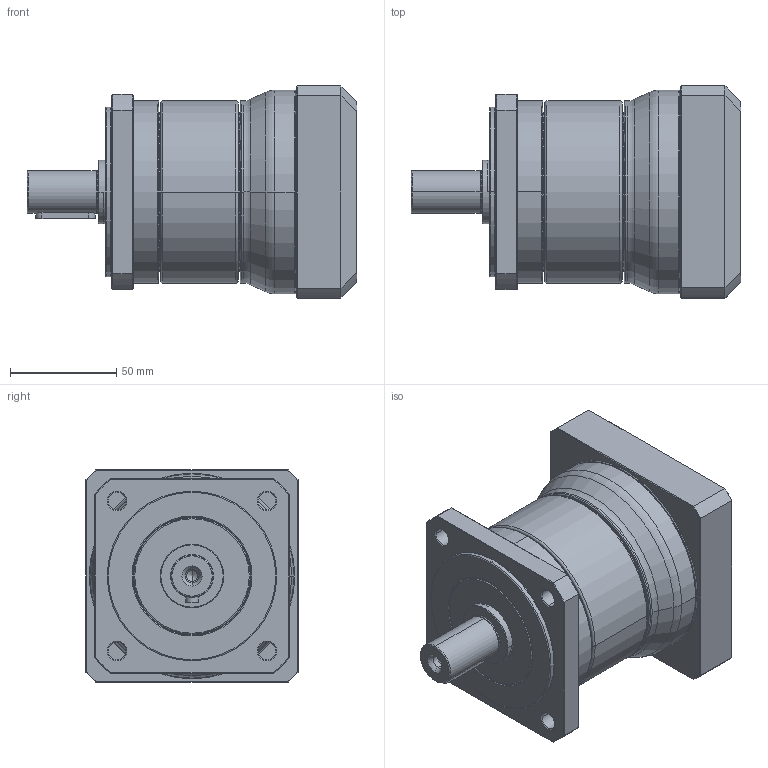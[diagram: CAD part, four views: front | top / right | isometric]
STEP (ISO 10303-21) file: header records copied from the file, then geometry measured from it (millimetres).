
FILE_DESCRIPTION((''),'2;1');
FILE_NAME('PG2-080A_1ST_24_P0411500101_ASM','2016-04-29T',('d01943'),(''),'PRO/ENGINEER BY PARAMETRIC TECHNOLOGY CORPORATION, 2008410','PRO/ENGINEER BY PARAMETRIC TECHNOLOGY CORPORATION, 2008410','');
FILE_SCHEMA(('CONFIG_CONTROL_DESIGN'));
Length unit declared in the file: millimetre
Products named in the file (9): P1326300001; P0250300001; P1324300201; P0350301103; P0941302001; P0503500008; P0411500101; P1702500001; PG2-080A_1ST_24_P0411500101_ASM
Assembly tree (8 placements, depth 2):
  PG2-080A_1ST_24_P0411500101_ASM
    P1326300001
    P0250300001
    P1324300201
    P0350301103
    P0941302001
    P0503500008
    P0411500101
    P1702500001
Bounding box: 155.5 x 100 x 100 mm (x, y, z)
Volume: 624054 mm3; surface area: 148243.2 mm2
Topology: 8 solids, 9 shells, 485 faces, 1070 edges, 618 vertices
Faces by surface type: cone 152, cylinder 139, plane 92, torus 90, bspline 12
Entity records: 17931 total; most frequent: CARTESIAN_POINT 6971, DIRECTION 2488, ORIENTED_EDGE 2084, AXIS2_PLACEMENT_3D 1061, EDGE_CURVE 1042, VERTEX_POINT 618, CIRCLE 571, EDGE_LOOP 554
